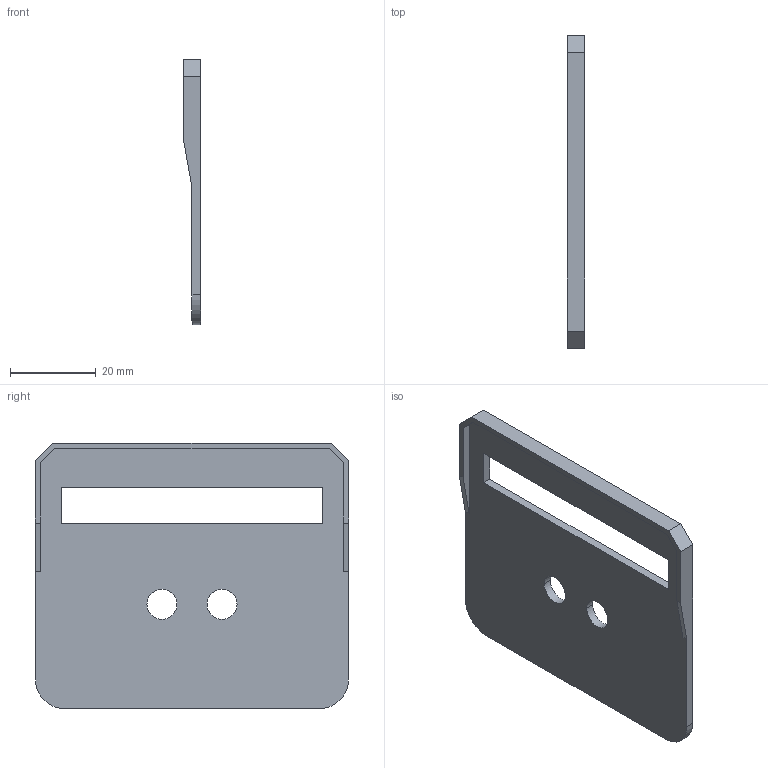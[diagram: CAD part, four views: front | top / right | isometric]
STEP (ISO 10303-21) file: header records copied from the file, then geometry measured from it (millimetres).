
FILE_DESCRIPTION (( 'STEP AP214' ), '1' );
FILE_NAME ('Distanz 2 mm_KK697610_rechts.step', '2010-10-06T09:28:43', ( 'grass' ), ( '' ), 'SwSTEP 2.0', 'SolidWorks 2010', '' );
FILE_SCHEMA (( 'AUTOMOTIVE_DESIGN' ));
Length unit declared in the file: millimetre
Products named in the file (1): Distanz 2 mm_KK697610_rechts
Bounding box: 4 x 73 x 62 mm (x, y, z)
Volume: 8086.3 mm3; surface area: 9143.2 mm2
Topology: 1 solids, 1 shells, 26 faces, 72 edges, 48 vertices
Faces by surface type: plane 20, cylinder 6
Entity records: 874 total; most frequent: CARTESIAN_POINT 147, ORIENTED_EDGE 144, DIRECTION 138, EDGE_CURVE 72, VECTOR 60, LINE 60, VERTEX_POINT 48, AXIS2_PLACEMENT_3D 39
